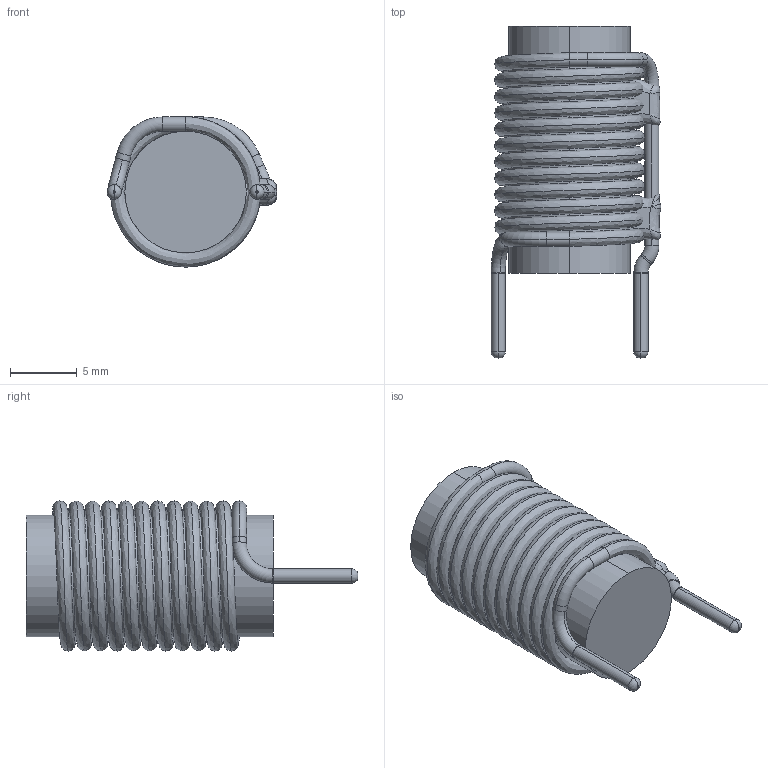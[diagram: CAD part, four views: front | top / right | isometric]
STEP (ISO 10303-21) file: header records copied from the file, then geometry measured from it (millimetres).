
FILE_DESCRIPTION (( 'STEP AP203' ), '1' );
FILE_NAME ('PV-472-05.STEP', '2020-10-20T14:13:24', ( 'Windows User' ), ( '' ), 'SwSTEP 2.0', 'SolidWorks 2015', '' );
FILE_SCHEMA (( 'CONFIG_CONTROL_DESIGN' ));
Length unit declared in the file: inch
Products named in the file (3): PV-472-05 - CORE; PV-472-05 - COIL; PV-472-05
Assembly tree (2 placements, depth 2):
  PV-472-05
    PV-472-05 - CORE
    PV-472-05 - COIL
Bounding box: 12.73 x 24.88 x 11.25 mm (x, y, z)
Volume: 1604 mm3; surface area: 2090.8 mm2
Topology: 8 solids, 8 shells, 88 faces, 200 edges, 116 vertices
Faces by surface type: bspline 32, cylinder 22, plane 18, torus 16
Entity records: 12743 total; most frequent: CARTESIAN_POINT 10745, ORIENTED_EDGE 376, DIRECTION 312, EDGE_CURVE 188, AXIS2_PLACEMENT_3D 141, VERTEX_POINT 116, ADVANCED_FACE 88, FACE_OUTER_BOUND 88
